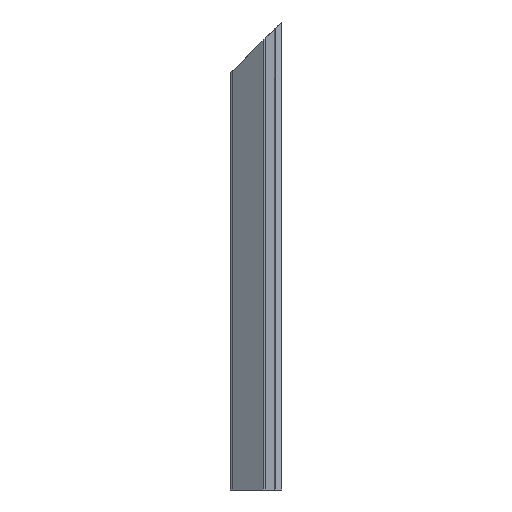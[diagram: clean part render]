
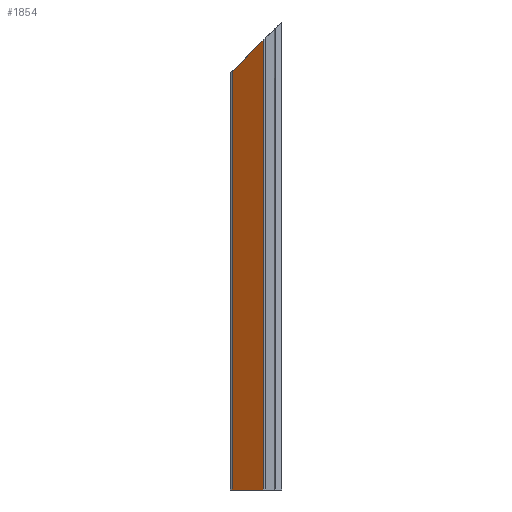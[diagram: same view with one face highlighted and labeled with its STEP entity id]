
A CAD part, left-side view. The second image highlights one B-rep face of the part: STEP entity #1854.
In plain terms, the highlighted planar face has unit normal (-0.827, 0.562, 0).
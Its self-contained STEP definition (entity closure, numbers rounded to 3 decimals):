
#98=FACE_OUTER_BOUND($,#194,.T.);
#194=EDGE_LOOP($,(#1380,#1381,#1382,#1383));
#321=LINE($,#2694,#537);
#396=LINE($,#2908,#612);
#397=LINE($,#2912,#613);
#398=LINE($,#2913,#614);
#537=VECTOR($,#2133,20.605);
#612=VECTOR($,#2312,192.029);
#613=VECTOR($,#2317,178.897);
#614=VECTOR($,#2318,15.878);
#761=VERTEX_POINT($,#2691);
#762=VERTEX_POINT($,#2693);
#849=VERTEX_POINT($,#2907);
#850=VERTEX_POINT($,#2911);
#949=EDGE_CURVE($,#762,#761,#321,.T.);
#1056=EDGE_CURVE($,#849,#762,#396,.T.);
#1058=EDGE_CURVE($,#850,#761,#397,.T.);
#1059=EDGE_CURVE($,#850,#849,#398,.T.);
#1380=ORIENTED_EDGE($,*,*,#949,.T.);
#1381=ORIENTED_EDGE($,*,*,#1058,.F.);
#1382=ORIENTED_EDGE($,*,*,#1059,.T.);
#1383=ORIENTED_EDGE($,*,*,#1056,.T.);
#1782=PLANE($,#1994);
#1854=ADVANCED_FACE($,(#98),#1782,.T.);
#1994=AXIS2_PLACEMENT_3D($,#2910,#2315,#2316);
#2133=DIRECTION($,(0.433,0.637,-0.637));
#2312=DIRECTION($,(0.,0.,1.));
#2315=DIRECTION('center_axis',(-0.827,0.562,0.));
#2316=DIRECTION('ref_axis',(-0.562,-0.827,0.));
#2317=DIRECTION($,(0.,0.,1.));
#2318=DIRECTION($,(-0.562,-0.827,0.));
#2691=CARTESIAN_POINT('',(10.332,21.844,178.897));
#2693=CARTESIAN_POINT('',(1.406,8.712,192.029));
#2694=CARTESIAN_POINT($,(28.359,48.366,152.375));
#2907=CARTESIAN_POINT('',(1.406,8.712,0.));
#2908=CARTESIAN_POINT($,(1.406,8.712,0.));
#2910=CARTESIAN_POINT('Origin',(10.332,21.844,0.));
#2911=CARTESIAN_POINT('',(10.332,21.844,0.));
#2912=CARTESIAN_POINT($,(10.332,21.844,0.));
#2913=CARTESIAN_POINT($,(10.332,21.844,0.));
